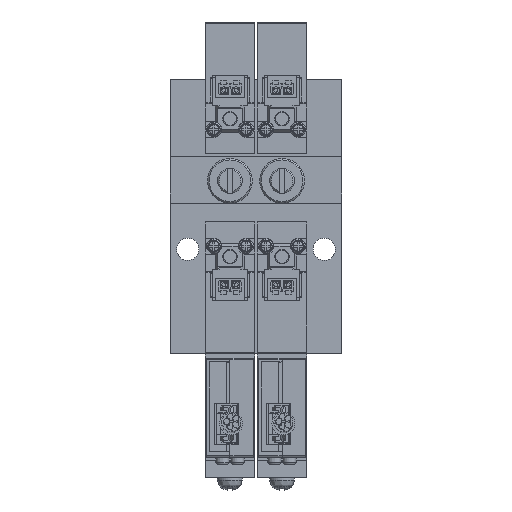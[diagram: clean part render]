
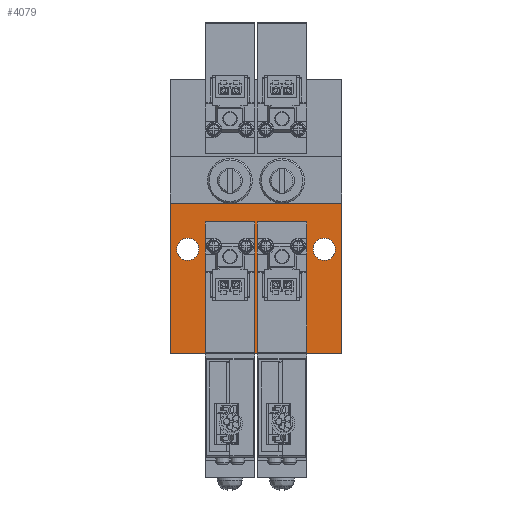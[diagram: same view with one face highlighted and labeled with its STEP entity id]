
A CAD part, top view. The second image highlights one B-rep face of the part: STEP entity #4079.
In plain terms, the highlighted planar face has unit normal (0, 0, 1).
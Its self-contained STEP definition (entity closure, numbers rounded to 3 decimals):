
#4079=ADVANCED_FACE('',(#6854,#6855,#6856),#6857,.F.);
#6854=FACE_BOUND('',#12478,.T.);
#6855=FACE_BOUND('',#12479,.T.);
#6856=FACE_OUTER_BOUND('',#12480,.T.);
#6857=PLANE('',#12481);
#12478=EDGE_LOOP('',(#19015));
#12479=EDGE_LOOP('',(#19016));
#12480=EDGE_LOOP('',(#19017,#19018,#19019,#19020));
#12481=AXIS2_PLACEMENT_3D('',#19021,#19022,#19023);
#19015=ORIENTED_EDGE('',*,*,#40851,.F.);
#19016=ORIENTED_EDGE('',*,*,#40852,.F.);
#19017=ORIENTED_EDGE('',*,*,#40853,.F.);
#19018=ORIENTED_EDGE('',*,*,#40854,.F.);
#19019=ORIENTED_EDGE('',*,*,#40855,.T.);
#19020=ORIENTED_EDGE('',*,*,#40849,.T.);
#19021=CARTESIAN_POINT('',(-34.5,30.3,14.8));
#19022=DIRECTION('',(0.0,0.0,-1.0));
#19023=DIRECTION('',(1.0,0.0,0.0));
#40849=EDGE_CURVE('',#47936,#47934,#47937,.T.);
#40851=EDGE_CURVE('',#47939,#47939,#47940,.T.);
#40852=EDGE_CURVE('',#47941,#47941,#47942,.T.);
#40853=EDGE_CURVE('',#47943,#47934,#47944,.T.);
#40854=EDGE_CURVE('',#47945,#47943,#47946,.T.);
#40855=EDGE_CURVE('',#47945,#47936,#47947,.T.);
#47934=VERTEX_POINT('',#59846);
#47936=VERTEX_POINT('',#59849);
#47937=LINE('',#59850,#59851);
#47939=VERTEX_POINT('',#59854);
#47940=CIRCLE('',#59855,2.25);
#47941=VERTEX_POINT('',#59856);
#47942=CIRCLE('',#59857,2.25);
#47943=VERTEX_POINT('',#59858);
#47944=LINE('',#59859,#59860);
#47945=VERTEX_POINT('',#59861);
#47946=LINE('',#59862,#59863);
#47947=LINE('',#59864,#59865);
#59846=CARTESIAN_POINT('',(0.0,0.,14.8));
#59849=CARTESIAN_POINT('',(-34.5,0.,14.8));
#59850=CARTESIAN_POINT('',(-34.5,0.,14.8));
#59851=VECTOR('',#78422,1.0);
#59854=CARTESIAN_POINT('',(-28.75,21.0,14.8));
#59855=AXIS2_PLACEMENT_3D('',#78424,#78425,#78426);
#59856=CARTESIAN_POINT('',(-1.25,21.0,14.8));
#59857=AXIS2_PLACEMENT_3D('',#78427,#78428,#78429);
#59858=CARTESIAN_POINT('',(0.0,30.3,14.8));
#59859=CARTESIAN_POINT('',(0.0,30.3,14.8));
#59860=VECTOR('',#78430,1.0);
#59861=CARTESIAN_POINT('',(-34.5,30.3,14.8));
#59862=CARTESIAN_POINT('',(-34.5,30.3,14.8));
#59863=VECTOR('',#78431,1.0);
#59864=CARTESIAN_POINT('',(-34.5,30.3,14.8));
#59865=VECTOR('',#78432,1.0);
#78422=DIRECTION('',(1.0,0.0,0.0));
#78424=CARTESIAN_POINT('',(-31.0,21.0,14.8));
#78425=DIRECTION('',(0.0,0.0,1.0));
#78426=DIRECTION('',(1.0,0.0,0.0));
#78427=CARTESIAN_POINT('',(-3.5,21.0,14.8));
#78428=DIRECTION('',(0.0,0.0,1.0));
#78429=DIRECTION('',(1.0,0.0,0.0));
#78430=DIRECTION('',(0.0,-1.0,0.0));
#78431=DIRECTION('',(1.0,0.0,0.0));
#78432=DIRECTION('',(0.0,-1.0,0.0));
